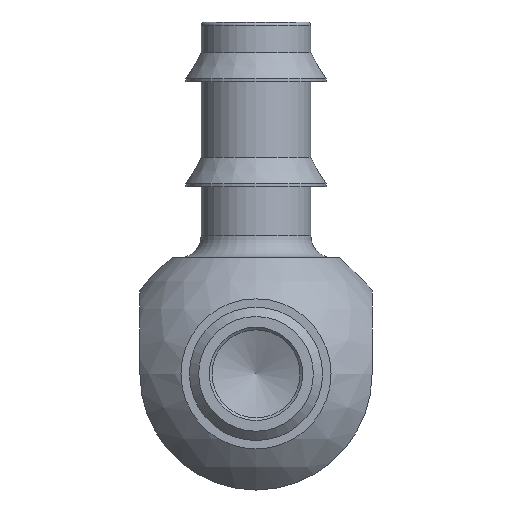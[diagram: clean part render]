
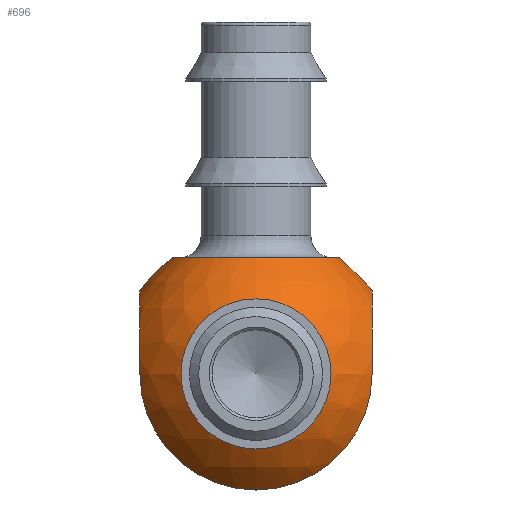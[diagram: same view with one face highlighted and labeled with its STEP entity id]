
A CAD part, front view. The second image highlights one B-rep face of the part: STEP entity #696.
In plain terms, the highlighted spherical face has radius 10.312 mm.
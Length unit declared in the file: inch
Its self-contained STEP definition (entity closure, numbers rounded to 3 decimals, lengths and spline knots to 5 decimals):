
#15=SPHERICAL_SURFACE('',#810,0.406);
#39=FACE_BOUND('',#155,.T.);
#40=FACE_BOUND('',#156,.T.);
#106=FACE_OUTER_BOUND('',#154,.T.);
#154=EDGE_LOOP('',(#638,#639,#640,#641,#642,#643,#644,#645,#646));
#155=EDGE_LOOP('',(#647));
#156=EDGE_LOOP('',(#648));
#245=CIRCLE('',#749,0.21323);
#246=CIRCLE('',#751,0.21323);
#247=CIRCLE('',#753,0.23651);
#248=CIRCLE('',#754,0.23651);
#249=CIRCLE('',#756,0.23651);
#250=CIRCLE('',#758,0.33);
#251=CIRCLE('',#759,0.33);
#274=CIRCLE('',#790,0.23651);
#275=CIRCLE('',#791,0.23651);
#288=CIRCLE('',#811,0.406);
#321=VERTEX_POINT('',#1183);
#322=VERTEX_POINT('',#1186);
#323=VERTEX_POINT('',#1189);
#324=VERTEX_POINT('',#1190);
#325=VERTEX_POINT('',#1192);
#326=VERTEX_POINT('',#1196);
#327=VERTEX_POINT('',#1197);
#347=VERTEX_POINT('',#1255);
#348=VERTEX_POINT('',#1256);
#405=EDGE_CURVE('',#321,#321,#245,.T.);
#406=EDGE_CURVE('',#322,#322,#246,.T.);
#407=EDGE_CURVE('',#323,#324,#247,.T.);
#409=EDGE_CURVE('',#324,#325,#248,.T.);
#410=EDGE_CURVE('',#326,#327,#249,.T.);
#412=EDGE_CURVE('',#327,#323,#250,.T.);
#413=EDGE_CURVE('',#325,#326,#251,.T.);
#439=EDGE_CURVE('',#347,#348,#274,.T.);
#440=EDGE_CURVE('',#348,#347,#275,.T.);
#457=EDGE_CURVE('',#348,#324,#288,.T.);
#638=ORIENTED_EDGE('',*,*,#439,.T.);
#639=ORIENTED_EDGE('',*,*,#457,.T.);
#640=ORIENTED_EDGE('',*,*,#409,.T.);
#641=ORIENTED_EDGE('',*,*,#413,.T.);
#642=ORIENTED_EDGE('',*,*,#410,.T.);
#643=ORIENTED_EDGE('',*,*,#412,.T.);
#644=ORIENTED_EDGE('',*,*,#407,.T.);
#645=ORIENTED_EDGE('',*,*,#457,.F.);
#646=ORIENTED_EDGE('',*,*,#440,.T.);
#647=ORIENTED_EDGE('',*,*,#405,.T.);
#648=ORIENTED_EDGE('',*,*,#406,.T.);
#696=ADVANCED_FACE('',(#106,#39,#40),#15,.T.);
#749=AXIS2_PLACEMENT_3D('',#1184,#913,#914);
#751=AXIS2_PLACEMENT_3D('',#1187,#917,#918);
#753=AXIS2_PLACEMENT_3D('',#1191,#921,#922);
#754=AXIS2_PLACEMENT_3D('',#1194,#924,#925);
#756=AXIS2_PLACEMENT_3D('',#1198,#928,#929);
#758=AXIS2_PLACEMENT_3D('',#1201,#933,#934);
#759=AXIS2_PLACEMENT_3D('',#1202,#935,#936);
#790=AXIS2_PLACEMENT_3D('',#1257,#1000,#1001);
#791=AXIS2_PLACEMENT_3D('',#1258,#1002,#1003);
#810=AXIS2_PLACEMENT_3D('',#1293,#1044,#1045);
#811=AXIS2_PLACEMENT_3D('',#1294,#1046,#1047);
#913=DIRECTION('center_axis',(0.,-1.,0.));
#914=DIRECTION('ref_axis',(0.,0.,1.));
#917=DIRECTION('center_axis',(0.,1.,0.));
#918=DIRECTION('ref_axis',(0.,0.,-1.));
#921=DIRECTION('center_axis',(1.,0.,0.));
#922=DIRECTION('ref_axis',(0.,0.,1.));
#924=DIRECTION('center_axis',(1.,0.,0.));
#925=DIRECTION('ref_axis',(0.,0.,1.));
#928=DIRECTION('center_axis',(-1.,0.,0.));
#929=DIRECTION('ref_axis',(0.,0.,-1.));
#933=DIRECTION('center_axis',(0.,1.,0.));
#934=DIRECTION('ref_axis',(1.,0.,0.));
#935=DIRECTION('center_axis',(0.,-1.,0.));
#936=DIRECTION('ref_axis',(1.,0.,0.));
#1000=DIRECTION('center_axis',(0.,0.,-1.));
#1001=DIRECTION('ref_axis',(1.,0.,0.));
#1002=DIRECTION('center_axis',(0.,0.,-1.));
#1003=DIRECTION('ref_axis',(1.,0.,0.));
#1044=DIRECTION('center_axis',(0.,0.,1.));
#1045=DIRECTION('ref_axis',(1.,0.,0.));
#1046=DIRECTION('center_axis',(0.,-1.,0.));
#1047=DIRECTION('ref_axis',(-1.,0.,0.));
#1183=CARTESIAN_POINT('',(0.,0.3455,-0.21323));
#1184=CARTESIAN_POINT('Origin',(0.,0.3455,0.));
#1186=CARTESIAN_POINT('',(0.,-0.3455,0.21323));
#1187=CARTESIAN_POINT('Origin',(0.,-0.3455,0.));
#1189=CARTESIAN_POINT('',(-0.33,0.23651,0.));
#1190=CARTESIAN_POINT('',(-0.33,0.,0.23651));
#1191=CARTESIAN_POINT('Origin',(-0.33,0.,0.));
#1192=CARTESIAN_POINT('',(-0.33,-0.23651,0.));
#1194=CARTESIAN_POINT('Origin',(-0.33,0.,0.));
#1196=CARTESIAN_POINT('',(0.33,-0.23651,0.));
#1197=CARTESIAN_POINT('',(0.33,0.23651,0.));
#1198=CARTESIAN_POINT('Origin',(0.33,0.,0.));
#1201=CARTESIAN_POINT('Origin',(0.,0.23651,0.));
#1202=CARTESIAN_POINT('Origin',(0.,-0.23651,0.));
#1255=CARTESIAN_POINT('',(0.,0.23651,0.33));
#1256=CARTESIAN_POINT('',(-0.23651,0.,0.33));
#1257=CARTESIAN_POINT('Origin',(0.,0.,0.33));
#1258=CARTESIAN_POINT('Origin',(0.,0.,0.33));
#1293=CARTESIAN_POINT('Origin',(0.,0.,0.));
#1294=CARTESIAN_POINT('Origin',(0.,0.,0.));
